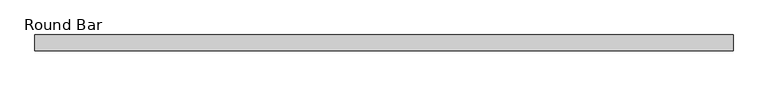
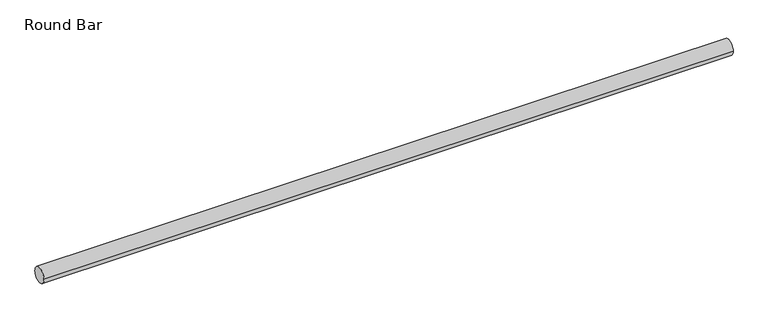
"""IFC4 building model written with IfcOpenShell, lengths in millimetres: beam geometry, Round Bar : Ispuna resetke."""

import ifcopenshell
import ifcopenshell.guid

model = None  # the IFC model being written
_history = None  # IfcOwnerHistory: only IFC2X3 demands one
_inside = {}  # id of a spatial element -> (the spatial element, [elements in it])
_under = {}  # id of a project, library or spatial element -> (it, [spatial elements below it])
_declared = {}  # id of a project -> (the project, [libraries it declares])
_typed = {}  # id of a type object -> (the type object, [elements of that type])
_made_of = {}  # id of a material, layer set ... -> (it, [elements and type objects made of it])


def new_model(schema):
    """Start an empty IFC model of exactly this schema.

    Asked for "IFC4X3", IfcOpenShell would pick the latest addendum, in which some entities
    have other attributes; the version numbers below select the first issue.
    IFC2X3 requires an IfcOwnerHistory on every rooted entity: one is made here for all.
    """
    global model, _history
    if schema == "IFC4X3":
        model = ifcopenshell.file(schema_version=(4, 3, 0, 0))
    else:
        model = ifcopenshell.file(schema=schema)
    _inside.clear()
    _under.clear()
    _declared.clear()
    _typed.clear()
    _made_of.clear()
    _history = None
    if model.schema == "IFC2X3":
        org = make("IfcOrganization", Name="unknown")
        user = make(
            "IfcPersonAndOrganization",
            ThePerson=make("IfcPerson", FamilyName="unknown"),
            TheOrganization=org,
        )
        app = make(
            "IfcApplication",
            ApplicationDeveloper=org,
            Version="unknown",
            ApplicationFullName="unknown",
            ApplicationIdentifier="unknown",
        )
        _history = make(
            "IfcOwnerHistory",
            OwningUser=user,
            OwningApplication=app,
            ChangeAction="ADDED",
            CreationDate=0,
        )
    return model


def make(cls, **values):
    """One entity of the class cls with the attributes given. An attribute that is None is left unset."""
    return model.create_entity(
        cls, **{name: value for name, value in values.items() if value is not None}
    )


def rooted(cls, **values):
    """An entity with a GlobalId (a new one), such as an element, a storey or a relation."""
    return make(cls, GlobalId=ifcopenshell.guid.new(), OwnerHistory=_history, **values)


def si_unit(unit_type, name, prefix=None):
    """IfcSIUnit, for example si_unit("LENGTHUNIT", "METRE", prefix="MILLI")."""
    return make("IfcSIUnit", UnitType=unit_type, Prefix=prefix, Name=name)


def assignment(units):
    """IfcUnitAssignment: the units of a project."""
    return None if units is None else make("IfcUnitAssignment", Units=units)


def point(xyz):
    """IfcCartesianPoint."""
    return None if xyz is None else make("IfcCartesianPoint", Coordinates=xyz)


def direction(xyz):
    """IfcDirection."""
    return None if xyz is None else make("IfcDirection", DirectionRatios=xyz)


def frame(location, z_axis=None, x_axis=None):
    """IfcAxis2Placement3D, a coordinate frame: its origin and axes. An axis left out is left unset."""
    return make(
        "IfcAxis2Placement3D",
        Location=point(location),
        Axis=direction(z_axis),
        RefDirection=direction(x_axis),
    )


def frame_2d(location, x_axis=None):
    """IfcAxis2Placement2D, a coordinate frame in the plane: its origin and x axis."""
    return make(
        "IfcAxis2Placement2D", Location=point(location), RefDirection=direction(x_axis)
    )


def origin():
    """The frame at (0, 0, 0) with its axes left unset."""
    return frame((0.0, 0.0, 0.0))


def origin_2d():
    """The frame at (0, 0) in the plane with its x axis left unset."""
    return frame_2d((0.0, 0.0))


def place(relative_to, where):
    """IfcLocalPlacement: puts the frame where relative to a parent placement (None: the world)."""
    return make(
        "IfcLocalPlacement", PlacementRelTo=relative_to, RelativePlacement=where
    )


def context(
    kind, dimensions, precision=None, world=None, true_north=None, identifier=None
):
    """IfcGeometricRepresentationContext, for example the 3D "Model" context."""
    return make(
        "IfcGeometricRepresentationContext",
        ContextIdentifier=identifier,
        ContextType=kind,
        CoordinateSpaceDimension=dimensions,
        Precision=precision,
        WorldCoordinateSystem=world,
        TrueNorth=true_north,
    )


def project(units=None, contexts=None):
    """IfcProject with its units and contexts."""
    return rooted(
        "IfcProject",
        Name="project",
        RepresentationContexts=contexts,
        UnitsInContext=assignment(units),
    )


def spatial(cls, under=None, at=None, **own):
    """A site, building, storey or space (cls), placed at a placement, below another one or the project."""
    s = rooted(cls, ObjectPlacement=at, **own)
    if under is not None:
        _under.setdefault(under.id(), (under, []))[1].append(s)
    return s


def circle_curve(where, radius):
    """IfcCircle in the frame where."""
    return make("IfcCircle", Position=where, Radius=radius)


def trimmed(basis, trim1, trim2, sense, master):
    """IfcTrimmedCurve: the piece of a basis curve between two trims."""
    return make(
        "IfcTrimmedCurve",
        BasisCurve=basis,
        Trim1=trim1,
        Trim2=trim2,
        SenseAgreement=sense,
        MasterRepresentation=master,
    )


def segment(curve, same_sense, transition):
    """IfcCompositeCurveSegment."""
    return make(
        "IfcCompositeCurveSegment",
        Transition=transition,
        SameSense=same_sense,
        ParentCurve=curve,
    )


def composite_curve(segments, self_intersect=None):
    """IfcCompositeCurve: segments joined end to end."""
    return make("IfcCompositeCurve", Segments=segments, SelfIntersect=self_intersect)


def outline(outer, holes=None, kind="AREA"):
    """IfcArbitraryClosedProfileDef: a profile drawn as a closed curve; with holes, ...WithVoids."""
    if holes is None:
        return make("IfcArbitraryClosedProfileDef", ProfileType=kind, OuterCurve=outer)
    return make(
        "IfcArbitraryProfileDefWithVoids",
        ProfileType=kind,
        OuterCurve=outer,
        InnerCurves=holes,
    )


def extrude(swept, where, along, depth):
    """IfcExtrudedAreaSolid: the profile swept, set in the frame where, extruded along a direction by depth."""
    return make(
        "IfcExtrudedAreaSolid",
        SweptArea=swept,
        Position=where,
        ExtrudedDirection=direction(along),
        Depth=depth,
    )


def shape(context_of_items, identifier, shape_type, items):
    """IfcShapeRepresentation: the items that make up one representation, for example the "Body"."""
    return make(
        "IfcShapeRepresentation",
        ContextOfItems=context_of_items,
        RepresentationIdentifier=identifier,
        RepresentationType=shape_type,
        Items=items,
    )


def source(mapping_origin, context_of_items, identifier, shape_type, items):
    """IfcRepresentationMap: a shape defined once, which mapped items show again and again."""
    return make(
        "IfcRepresentationMap",
        MappingOrigin=mapping_origin,
        MappedRepresentation=shape(context_of_items, identifier, shape_type, items),
    )


def transform(
    local_origin,
    x_axis=None,
    y_axis=None,
    z_axis=None,
    scale=None,
    scale2=None,
    scale3=None,
    uniform=True,
):
    """IfcCartesianTransformationOperator3D, or its non-uniform kind. x_axis, y_axis, z_axis: its Axis1, 2, 3."""
    if uniform:
        return make(
            "IfcCartesianTransformationOperator3D",
            Axis1=direction(x_axis),
            Axis2=direction(y_axis),
            LocalOrigin=point(local_origin),
            Scale=scale,
            Axis3=direction(z_axis),
        )
    return make(
        "IfcCartesianTransformationOperator3DnonUniform",
        Axis1=direction(x_axis),
        Axis2=direction(y_axis),
        LocalOrigin=point(local_origin),
        Scale=scale,
        Axis3=direction(z_axis),
        Scale2=scale2,
        Scale3=scale3,
    )


def mapped(mapping_source, mapping_target):
    """IfcMappedItem: shows the shape of a source again, moved by a transform."""
    return make(
        "IfcMappedItem", MappingSource=mapping_source, MappingTarget=mapping_target
    )


def made_of(thing, what):
    """Note that an element or type object is made of a material, layer set ...; save() writes the relation."""
    if what is not None:
        _made_of.setdefault(what.id(), (what, []))[1].append(thing)
    return thing


def element(
    cls,
    number,
    at=None,
    inside=None,
    cuts=None,
    type_object=None,
    material=None,
    context=None,
    identifier="Body",
    shape_type=None,
    held_by="IfcProductDefinitionShape",
    body=None,
    shapes=None,
    **own,
):
    """One element of the class cls, such as IfcWall. Its Tag is "e" and its number.

    at: its placement. inside: the storey or other place that contains it. cuts: it is an
    opening in that element (IfcRelVoidsElement). A single representation is given by context,
    identifier, shape_type and body (its items); several are given by shapes. held_by: the class
    of the entity that holds the representations. save() writes the other relations.
    """
    e = rooted(cls, Tag="e%d" % number, ObjectPlacement=at, **own)
    if body is not None:
        shapes = [shape(context, identifier, shape_type, body)]
    if shapes is not None:
        e.Representation = make(held_by, Representations=shapes)
    if inside is not None:
        _inside.setdefault(inside.id(), (inside, []))[1].append(e)
    if cuts is not None:
        rooted(
            "IfcRelVoidsElement", RelatingBuildingElement=cuts, RelatedOpeningElement=e
        )
    if type_object is not None:
        _typed.setdefault(type_object.id(), (type_object, []))[1].append(e)
    return made_of(e, material)


def aggregate(whole, parts):
    """IfcRelAggregates: a whole, such as a stair, and the parts it consists of."""
    return rooted("IfcRelAggregates", RelatingObject=whole, RelatedObjects=parts)


def save(model, path):
    """Write the relations noted so far, then the file.

    IfcRelAggregates (storeys below a building ...), IfcRelContainedInSpatialStructure (elements
    in a storey), IfcRelDefinesByType, IfcRelAssociatesMaterial and IfcRelDeclares: one each for
    every whole, place, type object, material and project.
    """
    for whole, parts in _under.values():
        aggregate(whole, parts)
    for where, things in _inside.values():
        rooted(
            "IfcRelContainedInSpatialStructure",
            RelatedElements=things,
            RelatingStructure=where,
        )
    for kind, things in _typed.values():
        rooted("IfcRelDefinesByType", RelatedObjects=things, RelatingType=kind)
    for what, things in _made_of.values():
        rooted("IfcRelAssociatesMaterial", RelatedObjects=things, RelatingMaterial=what)
    for by, libraries in _declared.values():
        rooted("IfcRelDeclares", RelatingContext=by, RelatedDefinitions=libraries)
    model.write(path)


def round_bar_92be63b7(model_context):
    return source(origin(), model_context, "Body", "SweptSolid", [
        extrude(outline(composite_curve([segment(trimmed(circle_curve(origin_2d(), 100.0), [point((-100.0, 0.0))], [point((100.0, 0.0))], False, "CARTESIAN"), True, "CONTINUOUS"), segment(trimmed(circle_curve(origin_2d(), 100.0), [point((100.0, 0.0))], [point((-100.0, 0.0))], False, "CARTESIAN"), True, "CONTINUOUS")], self_intersect=False)), frame((-3769.0, 0.0, 0.0), z_axis=(1.0, 0.0, 0.0), x_axis=(0.0, 1.0, 0.0)), (0.0, 0.0, 1.0), 8813.0),
    ])


if __name__ == "__main__":
    model = new_model("IFC4")
    model_context = context("Model", 3, world=origin())
    ifc_project = project(units=[si_unit("LENGTHUNIT", "METRE", prefix="MILLI")], contexts=[model_context])
    site = spatial("IfcSite", under=ifc_project)
    building = spatial("IfcBuilding", under=site)
    placement = place(None, origin())
    round_bar_shape = round_bar_92be63b7(model_context)
    element("IfcBeam", 1, ObjectType="Round Bar : Ispuna resetke", at=placement, inside=building, context=model_context, shape_type="MappedRepresentation", body=[
        mapped(round_bar_shape, transform((0.0, 0.0, 0.0), x_axis=(1.0, 0.0, 0.0), y_axis=(0.0, 1.0, 0.0), z_axis=(0.0, 0.0, 1.0))),
    ])
    save(model, "model.ifc")
